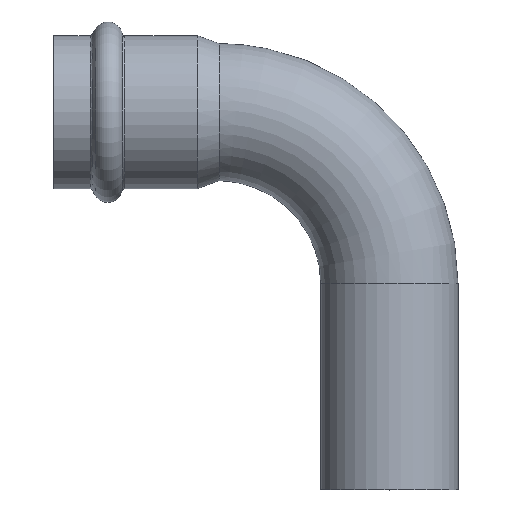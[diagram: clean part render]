
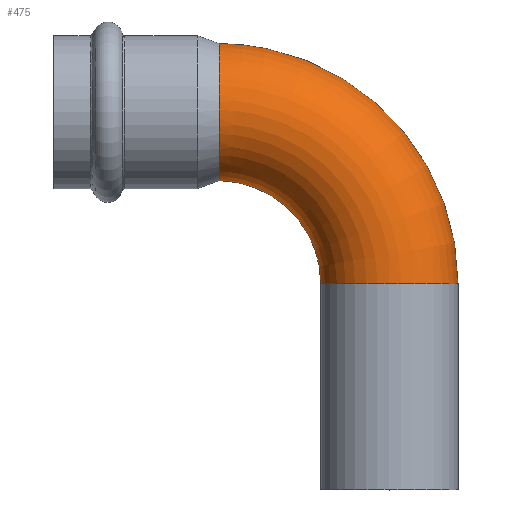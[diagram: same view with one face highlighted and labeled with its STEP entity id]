
A CAD part, top view. The second image highlights one B-rep face of the part: STEP entity #475.
In plain terms, the highlighted toroidal (fillet/blend) face has major radius 35 mm and minor radius 14 mm.
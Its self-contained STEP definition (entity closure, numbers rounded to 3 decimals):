
#400=CARTESIAN_POINT('',(14.,-35.0,0.));
#401=VERTEX_POINT('',#400);
#402=CARTESIAN_POINT('',(0.0,-35.0,0.0));
#403=DIRECTION('',(0.0,-1.0,0.0));
#404=DIRECTION('',(1.0,0.0,0.0));
#405=AXIS2_PLACEMENT_3D('',#402,#403,#404);
#406=CIRCLE('',#405,14.);
#407=EDGE_CURVE('',#401,#401,#406,.T.);
#424=CARTESIAN_POINT('',(-35.0,-35.0,0.));
#425=DIRECTION('',(0.,0.0,1.0));
#426=DIRECTION('',(1.0,0.0,0.0));
#427=AXIS2_PLACEMENT_3D('',#424,#425,#426);
#428=TOROIDAL_SURFACE('',#427,35.0,14.);
#429=CARTESIAN_POINT('',(-34.738,13.999,0.));
#430=VERTEX_POINT('',#429);
#431=CARTESIAN_POINT('',(-34.738,13.999,0.));
#432=CARTESIAN_POINT('',(-34.738,13.999,-1.823));
#433=CARTESIAN_POINT('',(-34.738,13.643,-3.628));
#434=CARTESIAN_POINT('',(-34.738,12.259,-7.001));
#435=CARTESIAN_POINT('',(-34.738,11.245,-8.536));
#436=CARTESIAN_POINT('',(-34.738,8.684,-11.131));
#437=CARTESIAN_POINT('',(-34.738,7.163,-12.165));
#438=CARTESIAN_POINT('',(-34.739,3.811,-13.594));
#439=CARTESIAN_POINT('',(-34.739,2.012,-13.974));
#440=CARTESIAN_POINT('',(-34.74,-1.631,-14.024));
#441=CARTESIAN_POINT('',(-34.74,-3.44,-13.693));
#442=CARTESIAN_POINT('',(-34.741,-6.83,-12.357));
#443=CARTESIAN_POINT('',(-34.742,-8.378,-11.364));
#444=CARTESIAN_POINT('',(-34.743,-11.01,-8.84));
#445=CARTESIAN_POINT('',(-34.743,-12.067,-7.331));
#446=CARTESIAN_POINT('',(-34.744,-13.544,-3.992));
#447=CARTESIAN_POINT('',(-34.744,-13.949,-2.193));
#448=CARTESIAN_POINT('',(-34.744,-14.045,1.453));
#449=CARTESIAN_POINT('',(-34.744,-13.736,3.267));
#450=CARTESIAN_POINT('',(-34.743,-12.444,6.671));
#451=CARTESIAN_POINT('',(-34.743,-11.472,8.231));
#452=CARTESIAN_POINT('',(-34.742,-8.984,10.892));
#453=CARTESIAN_POINT('',(-34.741,-7.491,11.968));
#454=CARTESIAN_POINT('',(-34.74,-4.175,13.487));
#455=CARTESIAN_POINT('',(-34.74,-2.384,13.916));
#456=CARTESIAN_POINT('',(-34.739,1.263,14.062));
#457=CARTESIAN_POINT('',(-34.739,3.083,13.777));
#458=CARTESIAN_POINT('',(-34.738,6.511,12.527));
#459=CARTESIAN_POINT('',(-34.738,8.086,11.573));
#460=CARTESIAN_POINT('',(-34.738,10.781,9.115));
#461=CARTESIAN_POINT('',(-34.738,11.875,7.635));
#462=CARTESIAN_POINT('',(-34.738,13.096,5.053));
#463=CARTESIAN_POINT('',(-34.738,13.433,4.075));
#464=CARTESIAN_POINT('',(-34.738,13.885,2.061));
#465=CARTESIAN_POINT('',(-34.738,13.999,1.032));
#466=CARTESIAN_POINT('',(-34.738,13.999,0.));
#467=B_SPLINE_CURVE_WITH_KNOTS('',3,(#431,#432,#433,#434,#435,#436,#437,#438,#439,#440,#441,#442,#443,#444,#445,#446,#447,#448,#449,#450,#451,#452,#453,#454,#455,#456,#457,#458,#459,#460,#461,#462,#463,#464,#465,#466),.UNSPECIFIED.,.T.,.U.,(4,2,2,2,2,2,2,2,2,2,2,2,2,2,2,2,2,4),(0.0,0.547,1.094,1.64,2.187,2.733,3.28,3.827,4.375,4.922,5.468,6.015,6.562,7.11,7.657,8.204,8.513,8.823),.UNSPECIFIED.);
#468=EDGE_CURVE('',#430,#430,#467,.T.);
#469=ORIENTED_EDGE('',*,*,#468,.F.);
#470=EDGE_LOOP('',(#469));
#471=FACE_OUTER_BOUND('',#470,.T.);
#472=ORIENTED_EDGE('',*,*,#407,.F.);
#473=EDGE_LOOP('',(#472));
#474=FACE_BOUND('',#473,.T.);
#475=ADVANCED_FACE('',(#471,#474),#428,.T.);
